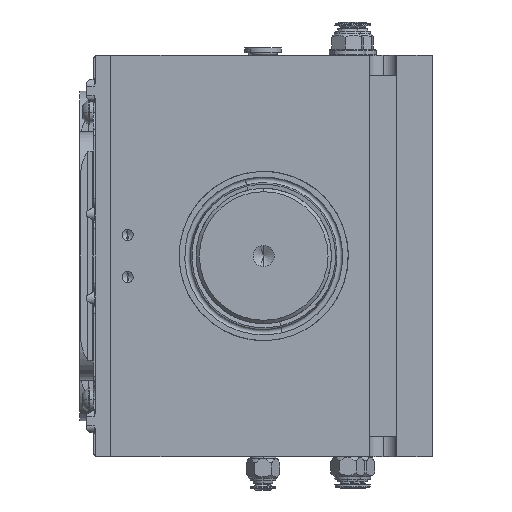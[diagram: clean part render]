
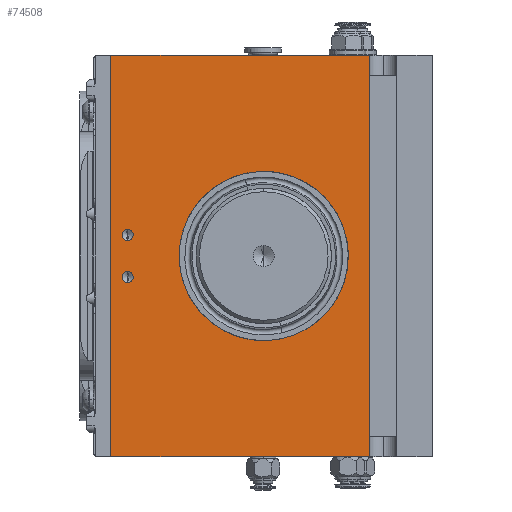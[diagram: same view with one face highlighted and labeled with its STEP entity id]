
A CAD part, left-side view. The second image highlights one B-rep face of the part: STEP entity #74508.
In plain terms, the highlighted planar face has unit normal (-1, 0, 0).
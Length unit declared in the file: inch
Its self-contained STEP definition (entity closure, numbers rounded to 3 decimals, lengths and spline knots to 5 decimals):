
#1724 = DIRECTION ( 'NONE',  ( 0., 0., 1. ) ) ;
#2516 = CARTESIAN_POINT ( 'NONE',  ( -6.125, -0.37493, -0.3125 ) ) ;
#2646 = VERTEX_POINT ( 'NONE', #65500 ) ;
#2906 = DIRECTION ( 'NONE',  ( 0., 1., 0. ) ) ;
#3293 = CARTESIAN_POINT ( 'NONE',  ( -6.125, -3.94993, 2.96875 ) ) ;
#4703 = DIRECTION ( 'NONE',  ( 0., -1., 0. ) ) ;
#4759 = VECTOR ( 'NONE', #4703, 39.37008 ) ;
#5906 = VERTEX_POINT ( 'NONE', #41395 ) ;
#6741 = VERTEX_POINT ( 'NONE', #16800 ) ;
#6893 = EDGE_CURVE ( 'NONE', #61879, #6741, #64877, .T. ) ;
#7199 = DIRECTION ( 'NONE',  ( 0., 0., 1. ) ) ;
#9269 = DIRECTION ( 'NONE',  ( 0., 0., 1. ) ) ;
#9277 = CIRCLE ( 'NONE', #53657, 0.08268 ) ;
#11562 = ORIENTED_EDGE ( 'NONE', *, *, #40174, .F. ) ;
#14019 = ORIENTED_EDGE ( 'NONE', *, *, #17880, .F. ) ;
#14334 = FACE_OUTER_BOUND ( 'NONE', #38994, .T. ) ;
#15172 = AXIS2_PLACEMENT_3D ( 'NONE', #30667, #30285, #18369 ) ;
#16405 = DIRECTION ( 'NONE',  ( -1., 0., 0. ) ) ;
#16800 = CARTESIAN_POINT ( 'NONE',  ( -6.125, -0.37493, 0.22982 ) ) ;
#17708 = VERTEX_POINT ( 'NONE', #3293 ) ;
#17880 = EDGE_CURVE ( 'NONE', #6741, #61879, #34262, .T. ) ;
#18369 = DIRECTION ( 'NONE',  ( 0., 0., 1. ) ) ;
#19734 = EDGE_CURVE ( 'NONE', #62325, #5906, #23360, .T. ) ;
#20287 = VERTEX_POINT ( 'NONE', #47025 ) ;
#20310 = PLANE ( 'NONE',  #77926 ) ;
#20688 = DIRECTION ( 'NONE',  ( -1., 0., 0. ) ) ;
#21031 = AXIS2_PLACEMENT_3D ( 'NONE', #49404, #56124, #1724 ) ;
#21797 = ORIENTED_EDGE ( 'NONE', *, *, #50820, .F. ) ;
#23360 = LINE ( 'NONE', #59116, #4759 ) ;
#26652 = CARTESIAN_POINT ( 'NONE',  ( -6.125, 0.11987, -0.73794 ) ) ;
#27211 = EDGE_LOOP ( 'NONE', ( #38540, #14019 ) ) ;
#30285 = DIRECTION ( 'NONE',  ( -1., 0., 0. ) ) ;
#30611 = AXIS2_PLACEMENT_3D ( 'NONE', #46563, #16405, #7199 ) ;
#30667 = CARTESIAN_POINT ( 'NONE',  ( -6.125, -0.37493, 0.3125 ) ) ;
#32583 = DIRECTION ( 'NONE',  ( 0., 0., 1. ) ) ;
#33526 = LINE ( 'NONE', #63701, #43294 ) ;
#33664 = CARTESIAN_POINT ( 'NONE',  ( -6.125, -3.94993, 2.96875 ) ) ;
#33789 = CARTESIAN_POINT ( 'NONE',  ( -6.125, -0.12668, -2.96875 ) ) ;
#34262 = CIRCLE ( 'NONE', #15172, 0.08268 ) ;
#36896 = CARTESIAN_POINT ( 'NONE',  ( -6.125, -0.12668, -2.96875 ) ) ;
#37913 = CARTESIAN_POINT ( 'NONE',  ( -6.125, -0.37493, 0.39518 ) ) ;
#38182 = FACE_BOUND ( 'NONE', #50201, .T. ) ;
#38540 = ORIENTED_EDGE ( 'NONE', *, *, #6893, .F. ) ;
#38994 = EDGE_LOOP ( 'NONE', ( #72804, #53006, #64125, #66379 ) ) ;
#40174 = EDGE_CURVE ( 'NONE', #71468, #66807, #59118, .T. ) ;
#40527 = CARTESIAN_POINT ( 'NONE',  ( -6.125, -0.12668, 2.96875 ) ) ;
#40555 = EDGE_LOOP ( 'NONE', ( #21797, #77676 ) ) ;
#41261 = CIRCLE ( 'NONE', #21031, 1.25075 ) ;
#41395 = CARTESIAN_POINT ( 'NONE',  ( -6.125, -3.94993, -2.96875 ) ) ;
#42898 = VECTOR ( 'NONE', #46710, 39.37008 ) ;
#43068 = VECTOR ( 'NONE', #71167, 39.37008 ) ;
#43294 = VECTOR ( 'NONE', #2906, 39.37008 ) ;
#43440 = CARTESIAN_POINT ( 'NONE',  ( -6.125, -0.37493, -0.22982 ) ) ;
#44509 = FACE_BOUND ( 'NONE', #40555, .T. ) ;
#44894 = DIRECTION ( 'NONE',  ( 0., 0., 1. ) ) ;
#45008 = DIRECTION ( 'NONE',  ( -1., 0., 0. ) ) ;
#46563 = CARTESIAN_POINT ( 'NONE',  ( -6.125, -0.37493, 0.3125 ) ) ;
#46710 = DIRECTION ( 'NONE',  ( 0., 0., -1. ) ) ;
#47025 = CARTESIAN_POINT ( 'NONE',  ( -6.125, -2.38503, 1.25075 ) ) ;
#49404 = CARTESIAN_POINT ( 'NONE',  ( -6.125, -2.38503, 0. ) ) ;
#50201 = EDGE_LOOP ( 'NONE', ( #11562, #63705 ) ) ;
#50820 = EDGE_CURVE ( 'NONE', #20287, #2646, #41261, .T. ) ;
#50858 = DIRECTION ( 'NONE',  ( -1., 0., 0. ) ) ;
#51196 = CARTESIAN_POINT ( 'NONE',  ( -6.125, -0.37493, -0.39518 ) ) ;
#51993 = CARTESIAN_POINT ( 'NONE',  ( -6.125, -0.37493, -0.3125 ) ) ;
#52663 = LINE ( 'NONE', #33664, #42898 ) ;
#53006 = ORIENTED_EDGE ( 'NONE', *, *, #19734, .T. ) ;
#53657 = AXIS2_PLACEMENT_3D ( 'NONE', #2516, #45008, #9269 ) ;
#54340 = LINE ( 'NONE', #36896, #43068 ) ;
#55206 = AXIS2_PLACEMENT_3D ( 'NONE', #75106, #20688, #44894 ) ;
#56124 = DIRECTION ( 'NONE',  ( -1., 0., 0. ) ) ;
#59116 = CARTESIAN_POINT ( 'NONE',  ( -6.125, 0.10487, -2.96875 ) ) ;
#59118 = CIRCLE ( 'NONE', #74304, 0.08268 ) ;
#61879 = VERTEX_POINT ( 'NONE', #37913 ) ;
#62058 = EDGE_CURVE ( 'NONE', #17708, #63985, #33526, .T. ) ;
#62325 = VERTEX_POINT ( 'NONE', #33789 ) ;
#62393 = FACE_BOUND ( 'NONE', #27211, .T. ) ;
#62891 = EDGE_CURVE ( 'NONE', #2646, #20287, #75712, .T. ) ;
#63185 = DIRECTION ( 'NONE',  ( 0., 0., 1. ) ) ;
#63701 = CARTESIAN_POINT ( 'NONE',  ( -6.125, -4.87493, 2.96875 ) ) ;
#63705 = ORIENTED_EDGE ( 'NONE', *, *, #71575, .F. ) ;
#63985 = VERTEX_POINT ( 'NONE', #40527 ) ;
#64125 = ORIENTED_EDGE ( 'NONE', *, *, #66044, .F. ) ;
#64877 = CIRCLE ( 'NONE', #30611, 0.08268 ) ;
#65500 = CARTESIAN_POINT ( 'NONE',  ( -6.125, -2.38503, -1.25075 ) ) ;
#66044 = EDGE_CURVE ( 'NONE', #17708, #5906, #52663, .T. ) ;
#66379 = ORIENTED_EDGE ( 'NONE', *, *, #62058, .T. ) ;
#66807 = VERTEX_POINT ( 'NONE', #51196 ) ;
#66994 = EDGE_CURVE ( 'NONE', #62325, #63985, #54340, .T. ) ;
#71167 = DIRECTION ( 'NONE',  ( 0., 0., 1. ) ) ;
#71468 = VERTEX_POINT ( 'NONE', #43440 ) ;
#71575 = EDGE_CURVE ( 'NONE', #66807, #71468, #9277, .T. ) ;
#72804 = ORIENTED_EDGE ( 'NONE', *, *, #66994, .F. ) ;
#74304 = AXIS2_PLACEMENT_3D ( 'NONE', #51993, #75452, #32583 ) ;
#74508 = ADVANCED_FACE ( 'NONE', ( #38182, #62393, #14334, #44509 ), #20310, .T. ) ;
#75106 = CARTESIAN_POINT ( 'NONE',  ( -6.125, -2.38503, 0. ) ) ;
#75452 = DIRECTION ( 'NONE',  ( -1., 0., 0. ) ) ;
#75712 = CIRCLE ( 'NONE', #55206, 1.25075 ) ;
#77676 = ORIENTED_EDGE ( 'NONE', *, *, #62891, .F. ) ;
#77926 = AXIS2_PLACEMENT_3D ( 'NONE', #26652, #50858, #63185 ) ;
